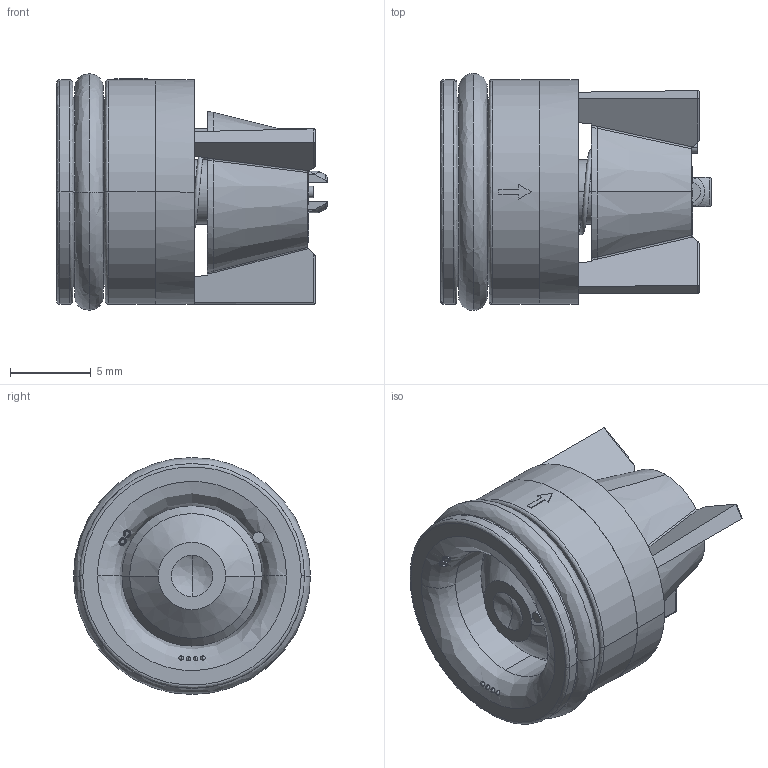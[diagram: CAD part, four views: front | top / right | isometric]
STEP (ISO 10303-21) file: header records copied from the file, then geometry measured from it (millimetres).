
FILE_DESCRIPTION (( 'STEP AP203' ), '1' );
FILE_NAME ('C0014-W149014630.STEP', '2020-04-08T14:57:03', ( '' ), ( '' ), 'SwSTEP 2.0', 'SolidWorks 2017', '' );
FILE_SCHEMA (( 'CONFIG_CONTROL_DESIGN' ));
Length unit declared in the file: metre
Products named in the file (7): PRT_FRVIR_0000007814; PRT_FRVIR_0000007812; Pièce2^ASM_FRVIR_0000002639; PRT_FRVIR_0000007811; PRT_FRVIR_0000009279_D15Spl(002); C0014-W149014630; FUR_FRVIR_0000001123_10.82x1.78Spl(CO014)
Assembly tree (6 placements, depth 2):
  C0014-W149014630
    PRT_FRVIR_0000007811
    PRT_FRVIR_0000007812
    PRT_FRVIR_0000007814
    FUR_FRVIR_0000001123_10.82x1.78Spl(CO014)
    PRT_FRVIR_0000009279_D15Spl(002)
    Pièce2^ASM_FRVIR_0000002639
Bounding box: 16.73 x 14.66 x 14.66 mm (x, y, z)
Volume: 991.6 mm3; surface area: 2634.4 mm2
Topology: 6 solids, 6 shells, 446 faces, 1131 edges, 724 vertices
Faces by surface type: plane 187, bspline 163, cylinder 53, cone 39, torus 4
Entity records: 24150 total; most frequent: CARTESIAN_POINT 14101, ORIENTED_EDGE 2242, DIRECTION 1407, EDGE_CURVE 1121, VERTEX_POINT 724, LINE 505, VECTOR 505, EDGE_LOOP 497
